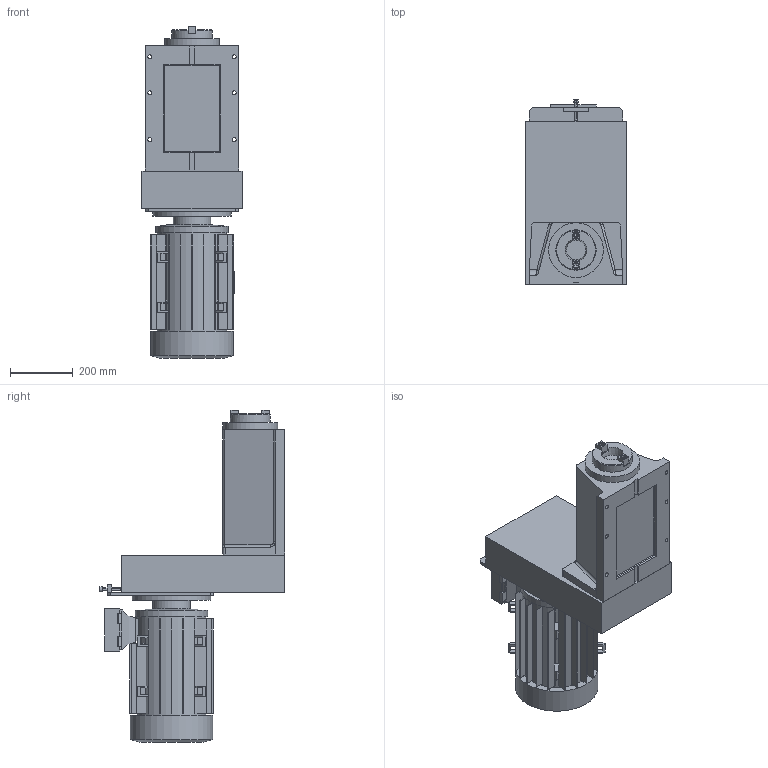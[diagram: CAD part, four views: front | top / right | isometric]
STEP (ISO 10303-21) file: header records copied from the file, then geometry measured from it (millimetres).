
FILE_DESCRIPTION((''),'2;1');
FILE_NAME('C:\VaultWork\Zeichnungen\Maßblätter\BF5\BF01363-1-0 Maßblatt Bohreinheit BF5 mit Z-Laterne.stp','2009-03-27T14:22:39',('Test'),(''),'Autodesk Inventor 2008','Autodesk Inventor 2008','');
FILE_SCHEMA(('AUTOMOTIVE_DESIGN { 1 0 10303 214 1 1 1 1 }'));
Length unit declared in the file: millimetre
Products named in the file (1): BF01363-1-0 Maßblatt Bohreinheit BF5 mit Z-Laterne
Bounding box: 320 x 593 x 1061.7 mm (x, y, z)
Volume: 59388729.4 mm3; surface area: 1846119.2 mm2
Topology: 1 solids, 3 shells, 493 faces, 1345 edges, 863 vertices
Faces by surface type: plane 403, cylinder 45, bspline 30, cone 12, torus 3
Full cylindrical faces by diameter (mm): 3.242 x1, 8 x1, 9 x2, 10 x2, 12 x6, 16 x1, 18 x2, 85 x1, 120 x1, 128.57 x1, 175 x1, 221 x1, 232 x1, 250 x1, 264 x1
Entity records: 16126 total; most frequent: CARTESIAN_POINT 3515, ORIENTED_EDGE 2520, DIRECTION 2355, EDGE_CURVE 1260, VECTOR 1013, LINE 1013, VERTEX_POINT 833, AXIS2_PLACEMENT_3D 671
